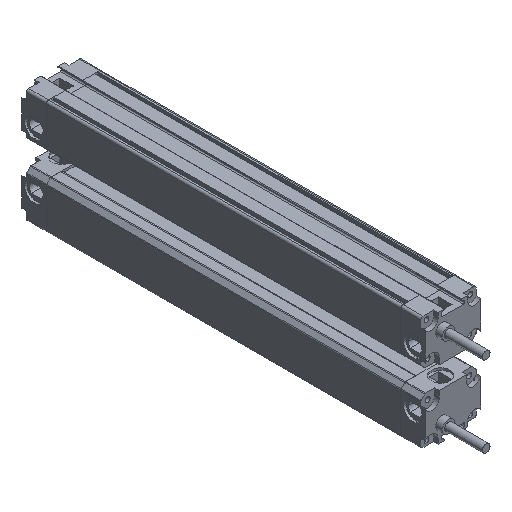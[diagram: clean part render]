
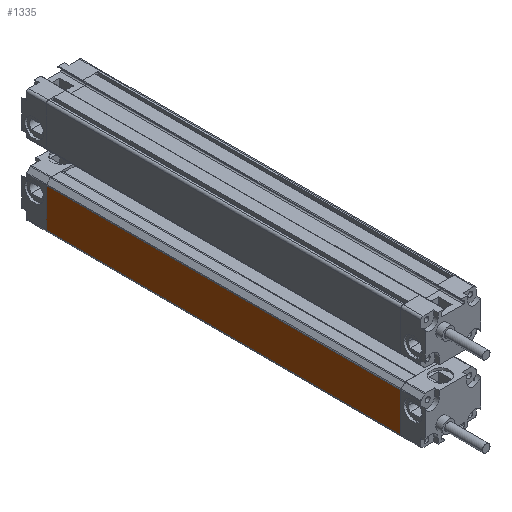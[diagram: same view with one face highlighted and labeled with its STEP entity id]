
A CAD part, isometric view. The second image highlights one B-rep face of the part: STEP entity #1335.
In plain terms, the highlighted planar face has unit normal (-1, 0, 0).
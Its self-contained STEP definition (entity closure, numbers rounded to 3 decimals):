
#1010 = CARTESIAN_POINT ( 'NONE',  ( -12.5, -160., 8.293 ) ) ;
#1288 = VERTEX_POINT ( 'NONE', #1010 ) ;
#1335 = ADVANCED_FACE ( 'NONE', ( #2886 ), #4436, .T. ) ;
#1699 = EDGE_CURVE ( 'NONE', #6930, #2801, #9651, .T. ) ;
#2403 = VECTOR ( 'NONE', #2934, 1000. ) ;
#2587 = CARTESIAN_POINT ( 'NONE',  ( -12.5, -160., 8.293 ) ) ;
#2723 = CARTESIAN_POINT ( 'NONE',  ( -12.5, -160., -9.2 ) ) ;
#2801 = VERTEX_POINT ( 'NONE', #4927 ) ;
#2886 = FACE_OUTER_BOUND ( 'NONE', #4600, .T. ) ;
#2934 = DIRECTION ( 'NONE',  ( 0., 0., 1. ) ) ;
#3101 = LINE ( 'NONE', #2587, #9051 ) ;
#3468 = CARTESIAN_POINT ( 'NONE',  ( -12.5, -160., -9.2 ) ) ;
#4090 = DIRECTION ( 'NONE',  ( 0., 0., 1. ) ) ;
#4436 = PLANE ( 'NONE',  #7901 ) ;
#4600 = EDGE_LOOP ( 'NONE', ( #9888, #5711, #7167, #10150 ) ) ;
#4927 = CARTESIAN_POINT ( 'NONE',  ( -12.5, 0., -9.2 ) ) ;
#5073 = VECTOR ( 'NONE', #4090, 1000. ) ;
#5711 = ORIENTED_EDGE ( 'NONE', *, *, #1699, .F. ) ;
#6030 = DIRECTION ( 'NONE',  ( 0., 1., 0. ) ) ;
#6036 = CARTESIAN_POINT ( 'NONE',  ( -12.5, -160., -9.2 ) ) ;
#6188 = CARTESIAN_POINT ( 'NONE',  ( -12.5, 0., -9.2 ) ) ;
#6782 = EDGE_CURVE ( 'NONE', #1288, #9324, #3101, .T. ) ;
#6789 = LINE ( 'NONE', #9076, #5073 ) ;
#6930 = VERTEX_POINT ( 'NONE', #2723 ) ;
#7167 = ORIENTED_EDGE ( 'NONE', *, *, #7624, .T. ) ;
#7624 = EDGE_CURVE ( 'NONE', #6930, #1288, #6789, .T. ) ;
#7822 = LINE ( 'NONE', #6188, #2403 ) ;
#7901 = AXIS2_PLACEMENT_3D ( 'NONE', #6036, #8722, #9588 ) ;
#8440 = VECTOR ( 'NONE', #9387, 1000. ) ;
#8722 = DIRECTION ( 'NONE',  ( -1., 0., 0. ) ) ;
#9051 = VECTOR ( 'NONE', #6030, 1000. ) ;
#9076 = CARTESIAN_POINT ( 'NONE',  ( -12.5, -160., -9.2 ) ) ;
#9287 = EDGE_CURVE ( 'NONE', #2801, #9324, #7822, .T. ) ;
#9324 = VERTEX_POINT ( 'NONE', #10521 ) ;
#9387 = DIRECTION ( 'NONE',  ( 0., 1., 0. ) ) ;
#9588 = DIRECTION ( 'NONE',  ( 0., 0., 1. ) ) ;
#9651 = LINE ( 'NONE', #3468, #8440 ) ;
#9888 = ORIENTED_EDGE ( 'NONE', *, *, #9287, .F. ) ;
#10150 = ORIENTED_EDGE ( 'NONE', *, *, #6782, .T. ) ;
#10521 = CARTESIAN_POINT ( 'NONE',  ( -12.5, 0., 8.293 ) ) ;
